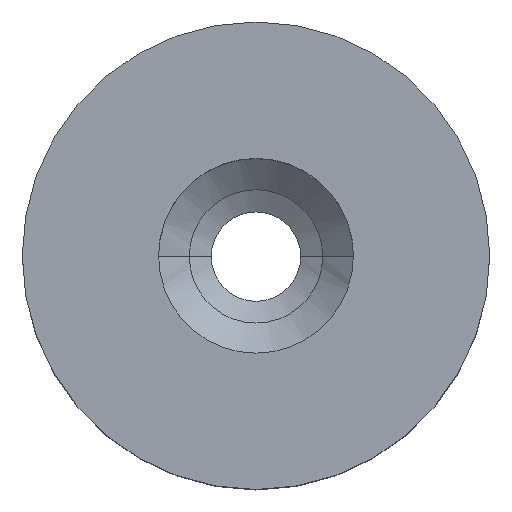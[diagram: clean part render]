
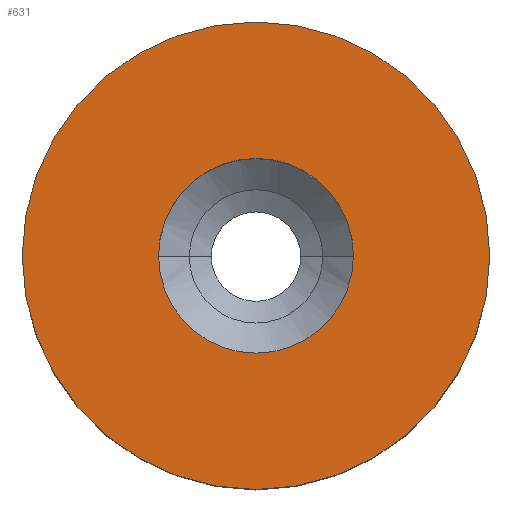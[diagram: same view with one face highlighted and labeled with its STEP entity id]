
A CAD part, top view. The second image highlights one B-rep face of the part: STEP entity #631.
In plain terms, the highlighted planar face has unit normal (0, 0, 1).
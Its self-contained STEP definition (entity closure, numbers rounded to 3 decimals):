
#8 = VERTEX_POINT ( 'NONE', #215 ) ;
#25 = CIRCLE ( 'NONE', #76, 6. ) ;
#28 = EDGE_CURVE ( 'NONE', #668, #8, #250, .T. ) ;
#49 = FACE_OUTER_BOUND ( 'NONE', #274, .T. ) ;
#76 = AXIS2_PLACEMENT_3D ( 'NONE', #379, #439, #170 ) ;
#79 = CIRCLE ( 'NONE', #539, 6. ) ;
#103 = DIRECTION ( 'NONE',  ( 0., 0., 1. ) ) ;
#128 = EDGE_LOOP ( 'NONE', ( #261, #362 ) ) ;
#152 = CIRCLE ( 'NONE', #321, 2.5 ) ;
#170 = DIRECTION ( 'NONE',  ( 1., 0., 0. ) ) ;
#178 = ORIENTED_EDGE ( 'NONE', *, *, #559, .T. ) ;
#205 = AXIS2_PLACEMENT_3D ( 'NONE', #514, #103, #367 ) ;
#215 = CARTESIAN_POINT ( 'NONE',  ( 2.5, 0., 0. ) ) ;
#222 = EDGE_CURVE ( 'NONE', #8, #668, #152, .T. ) ;
#250 = CIRCLE ( 'NONE', #205, 2.5 ) ;
#261 = ORIENTED_EDGE ( 'NONE', *, *, #222, .F. ) ;
#274 = EDGE_LOOP ( 'NONE', ( #502, #178 ) ) ;
#278 = VERTEX_POINT ( 'NONE', #617 ) ;
#285 = PLANE ( 'NONE',  #301 ) ;
#298 = EDGE_CURVE ( 'NONE', #278, #599, #25, .T. ) ;
#300 = DIRECTION ( 'NONE',  ( 0., 0., 1. ) ) ;
#301 = AXIS2_PLACEMENT_3D ( 'NONE', #634, #341, #338 ) ;
#317 = CARTESIAN_POINT ( 'NONE',  ( -2.5, 0., 0. ) ) ;
#321 = AXIS2_PLACEMENT_3D ( 'NONE', #540, #300, #484 ) ;
#338 = DIRECTION ( 'NONE',  ( -1., 0., 0. ) ) ;
#341 = DIRECTION ( 'NONE',  ( 0., 0., -1. ) ) ;
#362 = ORIENTED_EDGE ( 'NONE', *, *, #28, .F. ) ;
#367 = DIRECTION ( 'NONE',  ( 1., 0., 0. ) ) ;
#379 = CARTESIAN_POINT ( 'NONE',  ( 0., 0., 0. ) ) ;
#439 = DIRECTION ( 'NONE',  ( 0., 0., 1. ) ) ;
#467 = DIRECTION ( 'NONE',  ( 1., 0., 0. ) ) ;
#477 = CARTESIAN_POINT ( 'NONE',  ( 0., 0., 0. ) ) ;
#484 = DIRECTION ( 'NONE',  ( 1., 0., 0. ) ) ;
#502 = ORIENTED_EDGE ( 'NONE', *, *, #298, .T. ) ;
#514 = CARTESIAN_POINT ( 'NONE',  ( 0., 0., 0. ) ) ;
#539 = AXIS2_PLACEMENT_3D ( 'NONE', #477, #561, #467 ) ;
#540 = CARTESIAN_POINT ( 'NONE',  ( 0., 0., 0. ) ) ;
#559 = EDGE_CURVE ( 'NONE', #599, #278, #79, .T. ) ;
#561 = DIRECTION ( 'NONE',  ( 0., 0., 1. ) ) ;
#565 = FACE_BOUND ( 'NONE', #128, .T. ) ;
#574 = CARTESIAN_POINT ( 'NONE',  ( -6., 0., 0. ) ) ;
#599 = VERTEX_POINT ( 'NONE', #574 ) ;
#617 = CARTESIAN_POINT ( 'NONE',  ( 6., 0., 0. ) ) ;
#631 = ADVANCED_FACE ( 'NONE', ( #49, #565 ), #285, .F. ) ;
#634 = CARTESIAN_POINT ( 'NONE',  ( 0., 0., 0. ) ) ;
#668 = VERTEX_POINT ( 'NONE', #317 ) ;
